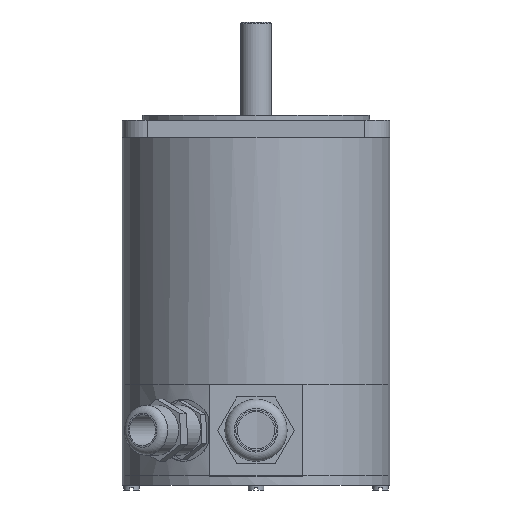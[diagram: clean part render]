
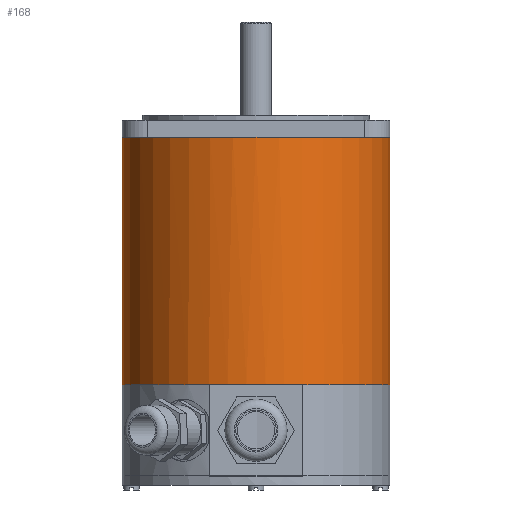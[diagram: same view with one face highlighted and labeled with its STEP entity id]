
A CAD part, front view. The second image highlights one B-rep face of the part: STEP entity #168.
In plain terms, the highlighted cylindrical face has radius 43 mm (diameter 86 mm), a full revolution.
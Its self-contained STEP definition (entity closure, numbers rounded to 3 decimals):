
#96=CARTESIAN_POINT('',(0.0,0.0,-32.));
#97=DIRECTION('',(0.0,0.0,1.0));
#98=DIRECTION('',(-1.0,0.0,0.0));
#99=AXIS2_PLACEMENT_3D('',#96,#97,#98);
#100=CYLINDRICAL_SURFACE('',#99,43.0);
#101=CARTESIAN_POINT('',(0.0,-43.0,47.5));
#102=VERTEX_POINT('',#101);
#103=CARTESIAN_POINT('',(43.0,0.,47.5));
#104=VERTEX_POINT('',#103);
#105=CARTESIAN_POINT('',(0.0,0.0,47.5));
#106=DIRECTION('',(0.0,0.0,1.0));
#107=DIRECTION('',(-1.0,0.0,0.0));
#108=AXIS2_PLACEMENT_3D('',#105,#106,#107);
#109=CIRCLE('',#108,43.0);
#110=EDGE_CURVE('',#102,#104,#109,.T.);
#111=ORIENTED_EDGE('',*,*,#110,.F.);
#112=CARTESIAN_POINT('',(-43.0,0.0,47.5));
#113=VERTEX_POINT('',#112);
#114=CARTESIAN_POINT('',(0.0,0.0,47.5));
#115=DIRECTION('',(0.0,0.0,1.0));
#116=DIRECTION('',(-1.0,0.0,0.0));
#117=AXIS2_PLACEMENT_3D('',#114,#115,#116);
#118=CIRCLE('',#117,43.0);
#119=EDGE_CURVE('',#113,#102,#118,.T.);
#120=ORIENTED_EDGE('',*,*,#119,.F.);
#121=CARTESIAN_POINT('',(0.0,43.0,47.5));
#122=VERTEX_POINT('',#121);
#123=CARTESIAN_POINT('',(0.0,0.0,47.5));
#124=DIRECTION('',(0.0,0.0,1.0));
#125=DIRECTION('',(-1.0,0.0,0.0));
#126=AXIS2_PLACEMENT_3D('',#123,#124,#125);
#127=CIRCLE('',#126,43.0);
#128=EDGE_CURVE('',#122,#113,#127,.T.);
#129=ORIENTED_EDGE('',*,*,#128,.F.);
#130=CARTESIAN_POINT('',(0.0,0.0,47.5));
#131=DIRECTION('',(0.0,0.0,1.0));
#132=DIRECTION('',(-1.0,0.0,0.0));
#133=AXIS2_PLACEMENT_3D('',#130,#131,#132);
#134=CIRCLE('',#133,43.0);
#135=EDGE_CURVE('',#104,#122,#134,.T.);
#136=ORIENTED_EDGE('',*,*,#135,.F.);
#137=EDGE_LOOP('',(#111,#120,#129,#136));
#138=FACE_OUTER_BOUND('',#137,.T.);
#139=CARTESIAN_POINT('',(43.0,0.,-32.));
#140=VERTEX_POINT('',#139);
#141=CARTESIAN_POINT('',(15.033,-40.287,-32.0));
#142=VERTEX_POINT('',#141);
#143=CARTESIAN_POINT('',(0.0,0.0,-32.0));
#144=DIRECTION('',(0.0,0.0,-1.0));
#145=DIRECTION('',(-0.35,0.937,0.0));
#146=AXIS2_PLACEMENT_3D('',#143,#144,#145);
#147=CIRCLE('',#146,43.);
#148=EDGE_CURVE('',#140,#142,#147,.T.);
#149=ORIENTED_EDGE('',*,*,#148,.F.);
#150=CARTESIAN_POINT('',(-15.033,-40.287,-32.0));
#151=VERTEX_POINT('',#150);
#152=CARTESIAN_POINT('',(0.0,0.0,-32.0));
#153=DIRECTION('',(0.0,0.0,-1.0));
#154=DIRECTION('',(-0.35,0.937,0.0));
#155=AXIS2_PLACEMENT_3D('',#152,#153,#154);
#156=CIRCLE('',#155,43.);
#157=EDGE_CURVE('',#151,#140,#156,.T.);
#158=ORIENTED_EDGE('',*,*,#157,.F.);
#159=CARTESIAN_POINT('',(0.0,0.0,-32.0));
#160=DIRECTION('',(0.0,0.0,-1.0));
#161=DIRECTION('',(-1.0,0.0,0.0));
#162=AXIS2_PLACEMENT_3D('',#159,#160,#161);
#163=CIRCLE('',#162,43.0);
#164=EDGE_CURVE('',#142,#151,#163,.T.);
#165=ORIENTED_EDGE('',*,*,#164,.F.);
#166=EDGE_LOOP('',(#149,#158,#165));
#167=FACE_BOUND('',#166,.T.);
#168=ADVANCED_FACE('',(#138,#167),#100,.T.);
